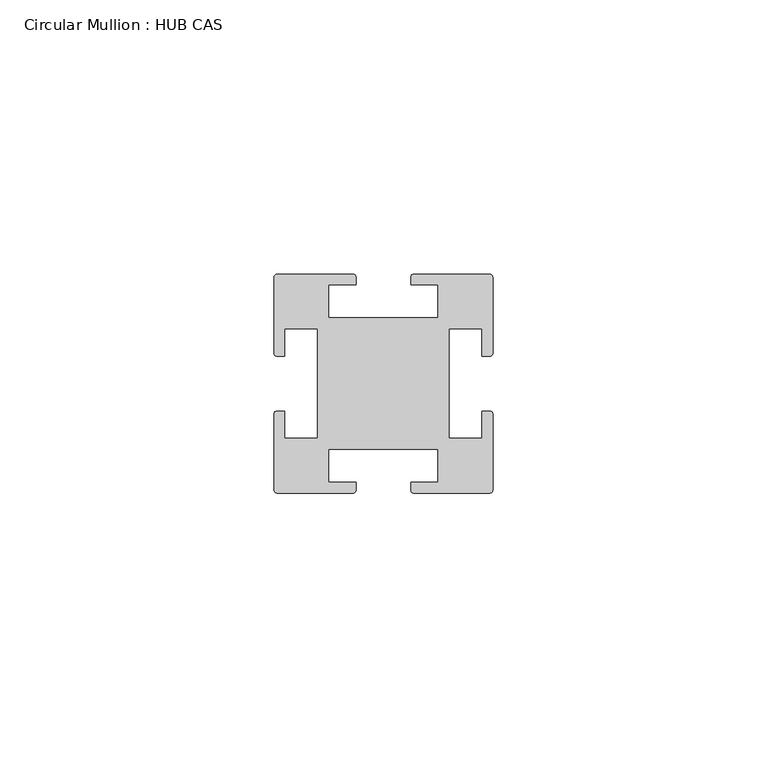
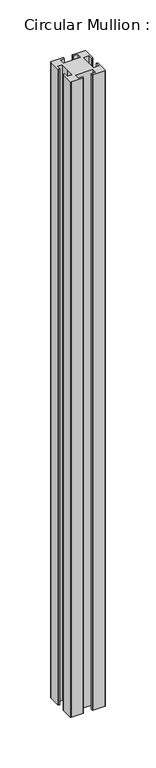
"""IFC4 building model written with IfcOpenShell, lengths in millimetres: member geometry, Circular Mullion : HUB CAS."""

from ifc_helpers import new_model, si_unit, point, frame, frame_2d, origin, place, context, project, spatial, polyline, circle_curve, trimmed, segment, composite_curve, outline, extrude, source, transform, mapped, element, save


def circular_mullion_hub_cas_e21eebc4(model_context):
    return source(origin(), model_context, "Body", "SweptSolid", [
        extrude(outline(composite_curve([segment(polyline([(5.601076, 2.0892375), (19.298924, 2.0892375)]), True, "CONTINUOUS"), segment(trimmed(circle_curve(frame_2d((19.298924, 1.3892375)), 0.7), [point((19.298924, 2.0892375))], [point((19.998924, 1.3892375))], False, "CARTESIAN"), True, "CONTINUOUS"), segment(polyline([(19.998924, 1.3892375), (19.998924, -12.3107625)]), True, "CONTINUOUS"), segment(trimmed(circle_curve(frame_2d((19.398924, -12.3107625)), 0.6), [point((19.998924, -12.3107625))], [point((19.398924, -12.9107625))], False, "CARTESIAN"), True, "CONTINUOUS"), segment(polyline([(19.398924, -12.9107625), (17.998924, -12.9107625), (17.998924, -7.9107625), (11.998924, -7.9107625), (11.998924, -17.9107625), (11.998924, -27.9107625), (17.998924, -27.9107625), (17.998924, -22.9107625), (19.398924, -22.9107625)]), True, "CONTINUOUS"), segment(trimmed(circle_curve(frame_2d((19.398924, -23.5107625)), 0.6), [point((19.398924, -22.9107625))], [point((19.998924, -23.5107625))], False, "CARTESIAN"), True, "CONTINUOUS"), segment(polyline([(19.998924, -23.5107625), (19.998924, -37.2107625)]), True, "CONTINUOUS"), segment(trimmed(circle_curve(frame_2d((19.298924, -37.2107625)), 0.7), [point((19.998924, -37.2107625))], [point((19.298924, -37.9107625))], False, "CARTESIAN"), True, "CONTINUOUS"), segment(polyline([(19.298924, -37.9107625), (5.601076, -37.9107625)]), True, "CONTINUOUS"), segment(trimmed(circle_curve(frame_2d((5.601076, -37.3107625)), 0.6), [point((5.601076, -37.9107625))], [point((5.001076, -37.3107625))], False, "CARTESIAN"), True, "CONTINUOUS"), segment(polyline([(5.001076, -37.3107625), (5.001076, -35.910257), (9.998924, -35.910257), (9.998924, -29.9107625), (-9.998924, -29.9107625), (-9.998924, -35.910257), (-5.001076, -35.910257), (-5.001076, -37.3107625)]), True, "CONTINUOUS"), segment(trimmed(circle_curve(frame_2d((-5.601076, -37.3107625)), 0.6), [point((-5.001076, -37.3107625))], [point((-5.601076, -37.9107625))], False, "CARTESIAN"), True, "CONTINUOUS"), segment(polyline([(-5.601076, -37.9107625), (-19.298924, -37.9107625)]), True, "CONTINUOUS"), segment(trimmed(circle_curve(frame_2d((-19.298924, -37.2107625)), 0.7), [point((-19.298924, -37.9107625))], [point((-19.998924, -37.2107625))], False, "CARTESIAN"), True, "CONTINUOUS"), segment(polyline([(-19.998924, -37.2107625), (-19.998924, -23.5107625)]), True, "CONTINUOUS"), segment(trimmed(circle_curve(frame_2d((-19.398924, -23.5107625)), 0.6), [point((-19.998924, -23.5107625))], [point((-19.398924, -22.9107625))], False, "CARTESIAN"), True, "CONTINUOUS"), segment(polyline([(-19.398924, -22.9107625), (-17.998924, -22.9107625), (-17.998924, -27.9107625), (-11.998924, -27.9107625), (-11.998924, -17.9107625), (-11.998924, -7.9107625), (-17.998924, -7.9107625), (-17.998924, -12.9107625), (-19.398924, -12.9107625)]), True, "CONTINUOUS"), segment(trimmed(circle_curve(frame_2d((-19.398924, -12.3107625)), 0.6), [point((-19.398924, -12.9107625))], [point((-19.998924, -12.3107625))], False, "CARTESIAN"), True, "CONTINUOUS"), segment(polyline([(-19.998924, -12.3107625), (-19.998924, 1.3892375)]), True, "CONTINUOUS"), segment(trimmed(circle_curve(frame_2d((-19.298924, 1.3892375)), 0.7), [point((-19.998924, 1.3892375))], [point((-19.298924, 2.0892375))], False, "CARTESIAN"), True, "CONTINUOUS"), segment(polyline([(-19.298924, 2.0892375), (-5.601076, 2.0892375)]), True, "CONTINUOUS"), segment(trimmed(circle_curve(frame_2d((-5.601076, 1.4892375)), 0.6), [point((-5.601076, 2.0892375))], [point((-5.001076, 1.4892375))], False, "CARTESIAN"), True, "CONTINUOUS"), segment(polyline([(-5.001076, 1.4892375), (-5.001076, 0.0887321), (-9.998924, 0.0887321), (-9.998924, -5.9107625), (9.998924, -5.9107625), (9.998924, 0.0887321), (5.001076, 0.0887321), (5.001076, 1.4892375)]), True, "CONTINUOUS"), segment(trimmed(circle_curve(frame_2d((5.601076, 1.4892375)), 0.6), [point((5.001076, 1.4892375))], [point((5.601076, 2.0892375))], False, "CARTESIAN"), True, "CONTINUOUS")], self_intersect=False)), frame((0.0, 0.0, -770.0010757), z_axis=(0.0, 0.0, 1.0), x_axis=(1.0, 0.0, 0.0)), (0.0, 0.0, 1.0), 770.0010757),
    ])


if __name__ == "__main__":
    model = new_model("IFC4")
    model_context = context("Model", 3, world=origin())
    ifc_project = project(units=[si_unit("LENGTHUNIT", "METRE", prefix="MILLI")], contexts=[model_context])
    site = spatial("IfcSite", under=ifc_project)
    building = spatial("IfcBuilding", under=site)
    placement = place(None, origin())
    circular_mullion_hub_cas_shape = circular_mullion_hub_cas_e21eebc4(model_context)
    element("IfcMember", 1, ObjectType="Circular Mullion : HUB CAS", at=placement, inside=building, context=model_context, shape_type="MappedRepresentation", body=[
        mapped(circular_mullion_hub_cas_shape, transform((0.0, 0.0, 0.0), x_axis=(1.0, 0.0, 0.0), y_axis=(0.0, 1.0, 0.0), z_axis=(0.0, 0.0, 1.0))),
    ])
    save(model, "model.ifc")
